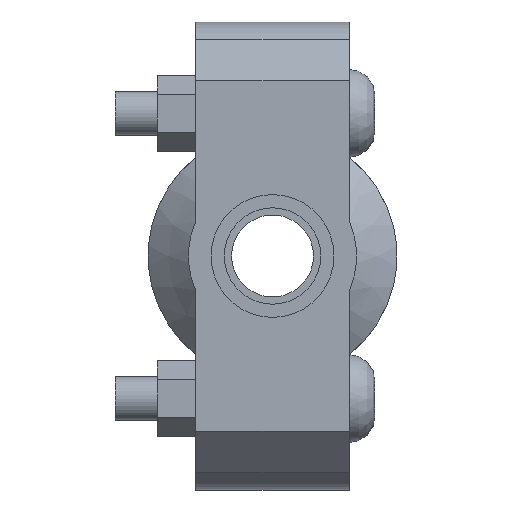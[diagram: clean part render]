
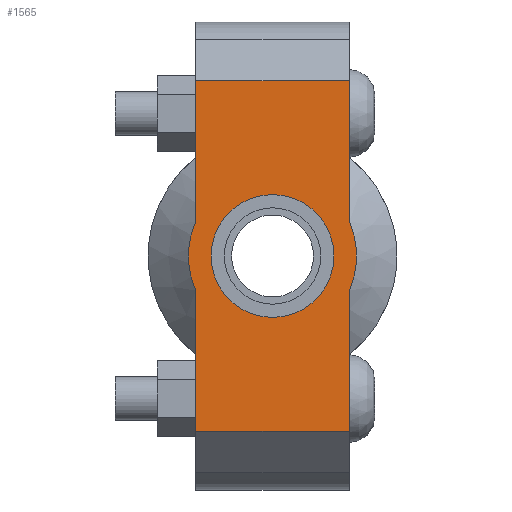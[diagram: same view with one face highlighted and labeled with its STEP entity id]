
A CAD part, left-side view. The second image highlights one B-rep face of the part: STEP entity #1565.
In plain terms, the highlighted planar face has unit normal (-1, 0, 0) as drawn and (0, 0, 1) by its records, which use the part's own axes.
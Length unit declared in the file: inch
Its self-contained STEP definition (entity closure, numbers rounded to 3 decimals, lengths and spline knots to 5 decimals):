
#120=LINE('',#2705,#217);
#135=LINE('',#2764,#232);
#143=LINE('',#2794,#240);
#145=LINE('',#2797,#242);
#146=LINE('',#2802,#243);
#147=LINE('',#2803,#244);
#217=VECTOR('',#2209,0.3937);
#232=VECTOR('',#2244,0.3937);
#240=VECTOR('',#2264,0.3937);
#242=VECTOR('',#2268,0.3937);
#243=VECTOR('',#2273,0.3937);
#244=VECTOR('',#2274,0.3937);
#308=FACE_BOUND('',#485,.T.);
#376=FACE_OUTER_BOUND('',#484,.T.);
#484=EDGE_LOOP('',(#1266,#1267,#1268,#1269,#1270,#1271,#1272,#1273));
#485=EDGE_LOOP('',(#1274));
#567=CIRCLE('',#1793,0.525);
#591=CIRCLE('',#1845,0.719);
#592=CIRCLE('',#1846,0.719);
#663=VERTEX_POINT('',#2531);
#704=VERTEX_POINT('',#2702);
#705=VERTEX_POINT('',#2704);
#726=VERTEX_POINT('',#2759);
#727=VERTEX_POINT('',#2763);
#736=VERTEX_POINT('',#2789);
#737=VERTEX_POINT('',#2793);
#738=VERTEX_POINT('',#2799);
#739=VERTEX_POINT('',#2801);
#827=EDGE_CURVE('',#663,#663,#567,.T.);
#884=EDGE_CURVE('',#705,#704,#120,.T.);
#909=EDGE_CURVE('',#727,#726,#135,.T.);
#922=EDGE_CURVE('',#737,#736,#143,.T.);
#924=EDGE_CURVE('',#737,#704,#145,.T.);
#925=EDGE_CURVE('',#736,#738,#591,.T.);
#926=EDGE_CURVE('',#738,#739,#146,.T.);
#927=EDGE_CURVE('',#727,#739,#147,.T.);
#928=EDGE_CURVE('',#726,#705,#592,.T.);
#1266=ORIENTED_EDGE('',*,*,#924,.F.);
#1267=ORIENTED_EDGE('',*,*,#922,.T.);
#1268=ORIENTED_EDGE('',*,*,#925,.T.);
#1269=ORIENTED_EDGE('',*,*,#926,.T.);
#1270=ORIENTED_EDGE('',*,*,#927,.F.);
#1271=ORIENTED_EDGE('',*,*,#909,.T.);
#1272=ORIENTED_EDGE('',*,*,#928,.T.);
#1273=ORIENTED_EDGE('',*,*,#884,.T.);
#1274=ORIENTED_EDGE('',*,*,#827,.T.);
#1405=PLANE('',#1844);
#1565=ADVANCED_FACE('',(#376,#308),#1405,.T.);
#1793=AXIS2_PLACEMENT_3D('',#2533,#2099,#2100);
#1844=AXIS2_PLACEMENT_3D('',#2798,#2269,#2270);
#1845=AXIS2_PLACEMENT_3D('',#2800,#2271,#2272);
#1846=AXIS2_PLACEMENT_3D('',#2804,#2275,#2276);
#2099=DIRECTION('center_axis',(0.,0.,-1.));
#2100=DIRECTION('ref_axis',(-1.,0.,0.));
#2209=DIRECTION('',(-1.,0.,0.));
#2244=DIRECTION('',(-1.,0.,0.));
#2264=DIRECTION('',(1.,0.,0.));
#2268=DIRECTION('',(0.,1.,0.));
#2269=DIRECTION('center_axis',(0.,0.,1.));
#2270=DIRECTION('ref_axis',(1.,0.,0.));
#2271=DIRECTION('center_axis',(0.,0.,1.));
#2272=DIRECTION('ref_axis',(-1.,0.,0.));
#2273=DIRECTION('',(1.,0.,0.));
#2274=DIRECTION('',(0.,-1.,0.));
#2275=DIRECTION('center_axis',(0.,0.,1.));
#2276=DIRECTION('ref_axis',(-1.,0.,0.));
#2531=CARTESIAN_POINT('',(0.525,0.,0.875));
#2533=CARTESIAN_POINT('Origin',(0.,0.,0.875));
#2702=CARTESIAN_POINT('',(-1.5,0.656,0.875));
#2704=CARTESIAN_POINT('',(-0.29432,0.656,0.875));
#2705=CARTESIAN_POINT('',(2.,0.656,0.875));
#2759=CARTESIAN_POINT('',(0.29432,0.656,0.875));
#2763=CARTESIAN_POINT('',(1.5,0.656,0.875));
#2764=CARTESIAN_POINT('',(2.,0.656,0.875));
#2789=CARTESIAN_POINT('',(-0.29432,-0.656,0.875));
#2793=CARTESIAN_POINT('',(-1.5,-0.656,0.875));
#2794=CARTESIAN_POINT('',(-2.,-0.656,0.875));
#2797=CARTESIAN_POINT('',(-1.5,0.328,0.875));
#2798=CARTESIAN_POINT('Origin',(0.,0.,
0.875));
#2799=CARTESIAN_POINT('',(0.29432,-0.656,0.875));
#2800=CARTESIAN_POINT('Origin',(0.,0.,0.875));
#2801=CARTESIAN_POINT('',(1.5,-0.656,0.875));
#2802=CARTESIAN_POINT('',(-2.,-0.656,0.875));
#2803=CARTESIAN_POINT('',(1.5,-0.328,0.875));
#2804=CARTESIAN_POINT('Origin',(0.,0.,0.875));
